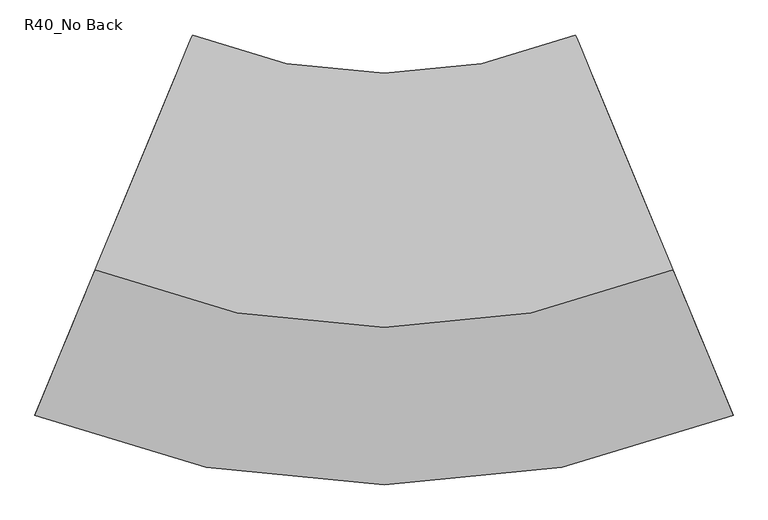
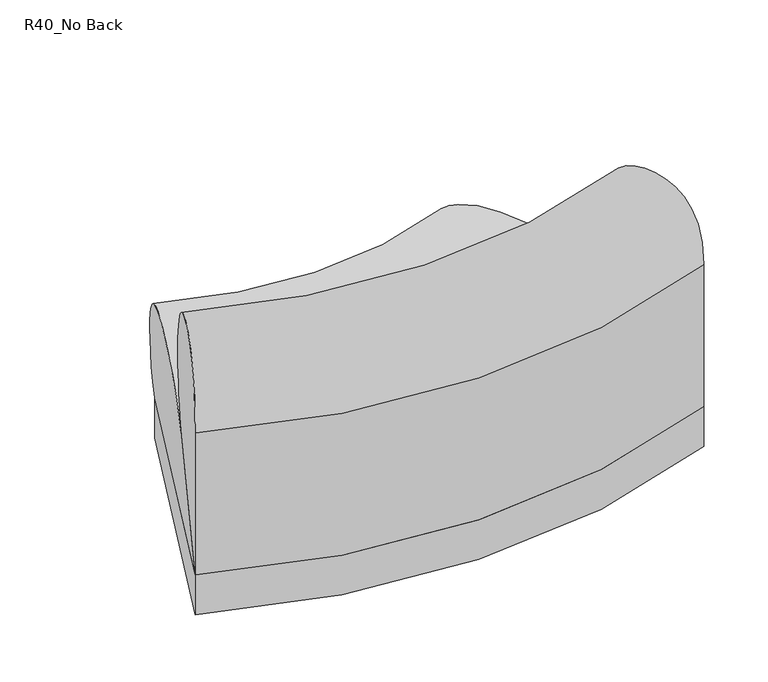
"""IFC4 building model written with IfcOpenShell, lengths in millimetres: furniture geometry, Memo_Candy_CurveInside_R40 : R40_No Back."""

from ifc_helpers import new_model, si_unit, point, frame, frame_2d, origin, origin_with_axes, place, context, project, spatial, polyline, circle_curve, ellipse_curve, trimmed, segment, composite_curve, outline, extrude, source, transform, mapped, element, save
from ifc_brep_helpers import plane_surface, cylinder_surface, revolved_surface, spline_curve, advanced_brep


def r40_no_back_3ae10d6b(model_context):
    return source(origin(), model_context, "Body", "SolidModel", [
        advanced_brep(
        [(-731.4419785, -254.5571445, 130.8862), (-731.4419785, -254.5571445, 562.6862), (-629.1154234, -7.5189875, 386.6180112), (-628.9674702, -7.1617968, 382.770933), (731.4419785, -254.5571445, 130.8862), (628.9674702, -7.1617968, 382.770933), (629.1154234, -7.5189875, 386.6180112), (731.4419785, -254.5571445, 562.6862)],
        [
            (0, 1),
            (1, 2, spline_curve(3, [(-731.4419785, -254.5571445, 562.6862), (-731.4419785, -254.5571445, 709.516352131), (-708.619406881, -199.458582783, 756.110862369), (-660.286457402, -82.772520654, 789.248467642), (-634.747423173, -21.115837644, 768.908542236), (-606.819796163, 46.307418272, 674.263665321), (-602.93956843, 55.675116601, 603.825037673), (-609.589379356, 39.621052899, 487.129586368), (-616.613307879, 22.663789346, 439.369212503), (-629.1154234, -7.5189875, 386.6180112)], [4, 2, 2, 2, 4], [0.0, 0.5511378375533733, 1.1606492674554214, 1.727611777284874, 2.146168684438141])),
            (2, 3, circle_curve(frame((-628.0824579, -5.0251882, 384.9463138), z_axis=(0.9238795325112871, -0.38268343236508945, 0.0), x_axis=(-0.38268343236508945, -0.9238795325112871, 0.0)), 3.175)),
            (3, 0),
            (4, 5),
            (5, 6, circle_curve(frame((628.0824579, -5.0251882, 384.9463138), z_axis=(-0.9238795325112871, -0.38268343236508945, 0.0), x_axis=(0.38268343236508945, -0.9238795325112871, 0.0)), 3.175)),
            (6, 7, spline_curve(3, [(629.1154234, -7.5189875, 386.6180112), (616.613307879, 22.663789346, 439.369212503), (609.589379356, 39.621052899, 487.129586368), (602.93956843, 55.675116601, 603.825037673), (606.819796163, 46.307418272, 674.263665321), (634.747423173, -21.115837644, 768.908542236), (660.286457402, -82.772520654, 789.248467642), (708.619406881, -199.458582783, 756.110862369), (731.4419785, -254.5571445, 709.516352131), (731.4419785, -254.5571445, 562.6862)], [4, 2, 2, 2, 4], [0.0, 0.4185569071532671, 0.9855194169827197, 1.5950308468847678, 2.146168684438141])),
            (7, 4),
            (4, 0, circle_curve(frame((0.0, 1511.3, 130.8862), z_axis=(0.0, 0.0, -1.0), x_axis=(-0.38268343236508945, -0.9238795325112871, 0.0)), 1911.35)),
            (3, 5, circle_curve(frame((0.0, 1511.3, 382.770933), z_axis=(0.0, 0.0, 1.0), x_axis=(-0.38268343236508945, -0.9238795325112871, 0.0)), 1643.5712053)),
            (2, 6, circle_curve(frame((0.0, 1511.3, 386.6180112), z_axis=(0.0, 0.0, 1.0), x_axis=(-0.38268343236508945, -0.9238795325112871, 0.0)), 1643.9578258)),
            (1, 7, circle_curve(frame((0.0, 1511.3, 562.6862), z_axis=(0.0, 0.0, 1.0), x_axis=(-0.38268343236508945, -0.9238795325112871, 0.0)), 1911.35)),
        ],
        [
            plane_surface(frame((0.0, 1511.3, -101.6), z_axis=(-0.923879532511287, 0.3826834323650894, 0.0), x_axis=(-0.3826834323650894, -0.923879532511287, 0.0))),
            plane_surface(frame((0.0, 1511.3, -101.6), z_axis=(0.923879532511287, 0.3826834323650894, 0.0), x_axis=(0.3826834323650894, -0.923879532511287, 0.0))),
            revolved_surface(polyline([(-628.9674702, -7.1617968, 382.770933), (-731.4419785, -254.5571445, 130.8862)]), (0.0, 1511.3, -101.6), (0.0, 0.0, 1.0)),
            revolved_surface(trimmed(ellipse_curve(frame((-628.0824579, -5.0251882, 384.9463138), z_axis=(0.9238795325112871, -0.38268343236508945, 0.0), x_axis=(-0.38268343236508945, -0.9238795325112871, 0.0)), 3.175, 3.175), [point((-629.1154234, -7.5189875, 386.6180112))], [point((-628.9674702, -7.1617968, 382.770933))], True, "CARTESIAN"), (0.0, 1511.3, -101.6), (0.0, 0.0, 1.0)),
            revolved_surface(spline_curve(3, [(-731.4419785, -254.5571445, 562.6862), (-731.4419785, -254.5571445, 709.516352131), (-708.619406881, -199.458582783, 756.110862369), (-660.286457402, -82.772520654, 789.248467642), (-634.747423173, -21.115837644, 768.908542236), (-606.819796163, 46.307418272, 674.263665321), (-602.93956843, 55.675116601, 603.825037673), (-609.589379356, 39.621052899, 487.129586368), (-616.613307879, 22.663789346, 439.369212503), (-629.1154234, -7.5189875, 386.6180112)], [4, 2, 2, 2, 4], [0.0, 0.5511378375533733, 1.1606492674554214, 1.727611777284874, 2.146168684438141]), (0.0, 1511.3, -101.6), (0.0, 0.0, 1.0)),
            cylinder_surface(frame((0.0, 1511.3, -101.6), z_axis=(0.0, 0.0, 1.0), x_axis=(-0.38268343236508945, -0.9238795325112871, 0.0)), 1911.35),
        ],
        [
            (0, [[1, 2, 3, 4]]),
            (1, [[5, 6, 7, 8]]),
            (2, [[-5, 9, -4, 10]]),
            (3, [[-6, -10, -3, 11]]),
            (4, [[-7, -11, -2, 12]]),
            (5, [[-8, -12, -1, -9]]),
        ],
    ),
        advanced_brep(
        [(-731.4419785, -254.5571445, 130.8862), (-628.9674702, -7.1617968, 382.770933), (-627.4163038, -3.4169498, 382.2910487), (-626.901641, -2.174444, 383.1727272), (-434.9771234, 461.1723294, 130.8862), (731.4419785, -254.5571445, 130.8862), (434.9771234, 461.1723294, 130.8862), (626.901641, -2.174444, 383.1727272), (627.4163038, -3.4169498, 382.2910487), (628.9674702, -7.1617968, 382.770933)],
        [
            (0, 1),
            (1, 2, circle_curve(frame((-628.0824579, -5.0251882, 384.9463138), z_axis=(0.9238795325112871, -0.38268343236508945, 0.0), x_axis=(-0.38268343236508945, -0.9238795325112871, 0.0)), 3.175)),
            (2, 3),
            (3, 4, spline_curve(3, [(-626.901641, -2.174444, 383.1727272), (-596.174348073, 72.007803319, 435.812236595), (-553.600502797, 174.790157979, 449.084914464), (-483.082653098, 345.035307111, 454.422655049), (-457.445877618, 406.927958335, 443.81214514), (-417.575648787, 503.183205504, 393.569418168), (-402.32453207, 540.002658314, 357.685536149), (-399.983616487, 545.654128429, 240.606468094), (-407.685661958, 527.05974575, 170.417318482), (-434.9771234, 461.1723294, 130.8862)], [4, 2, 2, 2, 4], [0.0, 0.5700178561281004, 1.2070229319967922, 1.7653111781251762, 2.2072085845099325])),
            (4, 0),
            (5, 6),
            (6, 7, spline_curve(3, [(434.9771234, 461.1723294, 130.8862), (407.685661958, 527.05974575, 170.417318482), (399.983616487, 545.654128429, 240.606468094), (402.32453207, 540.002658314, 357.685536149), (417.575648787, 503.183205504, 393.569418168), (457.445877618, 406.927958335, 443.81214514), (483.082653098, 345.035307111, 454.422655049), (553.600502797, 174.790157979, 449.084914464), (596.174348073, 72.007803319, 435.812236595), (626.901641, -2.174444, 383.1727272)], [4, 2, 2, 2, 4], [0.0, 0.4418974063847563, 1.0001856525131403, 1.637190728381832, 2.2072085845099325])),
            (7, 8),
            (8, 9, circle_curve(frame((628.0824579, -5.0251882, 384.9463138), z_axis=(-0.9238795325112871, -0.38268343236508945, 0.0), x_axis=(0.38268343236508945, -0.9238795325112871, 0.0)), 3.175)),
            (9, 5),
            (5, 0, circle_curve(frame((0.0, 1511.3, 130.8862), z_axis=(0.0, 0.0, -1.0), x_axis=(-0.38268343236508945, -0.9238795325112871, 0.0)), 1911.35)),
            (4, 6, circle_curve(frame((0.0, 1511.3, 130.8862), z_axis=(0.0, 0.0, 1.0), x_axis=(-0.38268343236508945, -0.9238795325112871, 0.0)), 1136.65)),
            (3, 7, circle_curve(frame((0.0, 1511.3, 383.1727272), z_axis=(0.0, 0.0, 1.0), x_axis=(-0.38268343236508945, -0.9238795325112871, 0.0)), 1638.1729335)),
            (2, 8, circle_curve(frame((0.0, 1511.3, 382.2910487), z_axis=(0.0, 0.0, 1.0), x_axis=(-0.38268343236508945, -0.9238795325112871, 0.0)), 1639.5178121)),
            (1, 9, circle_curve(frame((0.0, 1511.3, 382.770933), z_axis=(0.0, 0.0, 1.0), x_axis=(-0.38268343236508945, -0.9238795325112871, 0.0)), 1643.5712053)),
        ],
        [
            plane_surface(frame((0.0, 1511.3, -173.9138), z_axis=(-0.923879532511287, 0.3826834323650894, 0.0), x_axis=(-0.3826834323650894, -0.923879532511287, 0.0))),
            plane_surface(frame((0.0, 1511.3, -173.9138), z_axis=(0.923879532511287, 0.3826834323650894, 0.0), x_axis=(0.3826834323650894, -0.923879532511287, 0.0))),
            plane_surface(frame((0.0, 1511.3, 130.8862), z_axis=(0.0, 0.0, -1.0), x_axis=(-0.3826834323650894, -0.923879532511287, 0.0))),
            revolved_surface(spline_curve(3, [(-626.901641, -2.174444, 383.1727272), (-596.174348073, 72.007803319, 435.812236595), (-553.600502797, 174.790157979, 449.084914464), (-483.082653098, 345.035307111, 454.422655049), (-457.445877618, 406.927958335, 443.81214514), (-417.575648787, 503.183205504, 393.569418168), (-402.32453207, 540.002658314, 357.685536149), (-399.983616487, 545.654128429, 240.606468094), (-407.685661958, 527.05974575, 170.417318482), (-434.9771234, 461.1723294, 130.8862)], [4, 2, 2, 2, 4], [0.0, 0.5700178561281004, 1.2070229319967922, 1.7653111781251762, 2.2072085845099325]), (0.0, 1511.3, -173.9138), (0.0, 0.0, 1.0)),
            revolved_surface(polyline([(-627.4163038, -3.4169498, 382.2910487), (-626.901641, -2.174444, 383.1727272)]), (0.0, 1511.3, -173.9138), (0.0, 0.0, 1.0)),
            revolved_surface(trimmed(ellipse_curve(frame((-628.0824579, -5.0251882, 384.9463138), z_axis=(0.9238795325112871, -0.38268343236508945, 0.0), x_axis=(-0.38268343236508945, -0.9238795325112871, 0.0)), 3.175, 3.175), [point((-628.9674702, -7.1617968, 382.770933))], [point((-627.4163038, -3.4169498, 382.2910487))], True, "CARTESIAN"), (0.0, 1511.3, -173.9138), (0.0, 0.0, 1.0)),
            revolved_surface(polyline([(-731.4419785, -254.5571445, 130.8862), (-628.9674702, -7.1617968, 382.770933)]), (0.0, 1511.3, -173.9138), (0.0, 0.0, 1.0)),
        ],
        [
            (0, [[1, 2, 3, 4, 5]]),
            (1, [[6, 7, 8, 9, 10]]),
            (2, [[-6, 11, -5, 12]]),
            (3, [[-7, -12, -4, 13]]),
            (4, [[-8, -13, -3, 14]]),
            (5, [[-9, -14, -2, 15]]),
            (6, [[-10, -15, -1, -11]]),
        ],
    ),
        extrude(outline(composite_curve([segment(trimmed(circle_curve(frame_2d((658.8659727, -228.6833139)), 14.2875), [point((644.5784727, -228.6833139))], [point((673.1534727, -228.6833139))], False, "CARTESIAN"), True, "CONTINUOUS"), segment(trimmed(circle_curve(frame_2d((658.8659727, -228.6833139)), 14.2875), [point((673.1534727, -228.6833139))], [point((644.5784727, -228.6833139))], False, "CARTESIAN"), True, "CONTINUOUS")], self_intersect=False)), origin_with_axes(), (0.0, 0.0, 1.0), 10.2362),
        extrude(outline(composite_curve([segment(trimmed(circle_curve(frame_2d((400.9566853, 393.9647854)), 14.2875), [point((386.6691853, 393.9647854))], [point((415.2441853, 393.9647854))], False, "CARTESIAN"), True, "CONTINUOUS"), segment(trimmed(circle_curve(frame_2d((400.9566853, 393.9647854)), 14.2875), [point((415.2441853, 393.9647854))], [point((386.6691853, 393.9647854))], False, "CARTESIAN"), True, "CONTINUOUS")], self_intersect=False)), origin_with_axes(), (0.0, 0.0, 1.0), 10.2362),
        extrude(outline(composite_curve([segment(trimmed(circle_curve(frame_2d((-658.8659727, -228.6833139)), 14.2875), [point((-644.5784727, -228.6833139))], [point((-673.1534727, -228.6833139))], False, "CARTESIAN"), True, "CONTINUOUS"), segment(trimmed(circle_curve(frame_2d((-658.8659727, -228.6833139)), 14.2875), [point((-673.1534727, -228.6833139))], [point((-644.5784727, -228.6833139))], False, "CARTESIAN"), True, "CONTINUOUS")], self_intersect=False)), origin_with_axes(), (0.0, 0.0, 1.0), 10.2362),
        extrude(outline(composite_curve([segment(trimmed(circle_curve(frame_2d((-400.9566853, 393.9647854)), 14.2875), [point((-386.6691853, 393.9647854))], [point((-415.2441853, 393.9647854))], False, "CARTESIAN"), True, "CONTINUOUS"), segment(trimmed(circle_curve(frame_2d((-400.9566853, 393.9647854)), 14.2875), [point((-415.2441853, 393.9647854))], [point((-386.6691853, 393.9647854))], False, "CARTESIAN"), True, "CONTINUOUS")], self_intersect=False)), origin_with_axes(), (0.0, 0.0, 1.0), 10.2362),
        extrude(outline(composite_curve([segment(trimmed(circle_curve(frame_2d((0.0, -349.25)), 14.2875), [point((14.2875, -349.25))], [point((-14.2875, -349.25))], False, "CARTESIAN"), True, "CONTINUOUS"), segment(trimmed(circle_curve(frame_2d((0.0, -349.25)), 14.2875), [point((-14.2875, -349.25))], [point((14.2875, -349.25))], False, "CARTESIAN"), True, "CONTINUOUS")], self_intersect=False)), origin_with_axes(), (0.0, 0.0, 1.0), 10.2362),
        extrude(outline(composite_curve([segment(polyline([(-731.4419785, -254.5571445), (-434.9771234, 461.1723294)]), True, "CONTINUOUS"), segment(trimmed(circle_curve(frame_2d((0.0, 1511.3)), 1136.65), [point((-434.9771234, 461.1723294))], [point((434.9771234, 461.1723294))], True, "CARTESIAN"), True, "CONTINUOUS"), segment(polyline([(434.9771234, 461.1723294), (731.4419785, -254.5571445)]), True, "CONTINUOUS"), segment(trimmed(circle_curve(frame_2d((0.0, 1511.3)), 1911.35), [point((731.4419785, -254.5571445))], [point((-731.4419785, -254.5571445))], False, "CARTESIAN"), True, "CONTINUOUS")], self_intersect=False)), frame((0.0, 0.0, 10.2362), z_axis=(0.0, 0.0, 1.0), x_axis=(1.0, 0.0, 0.0)), (0.0, 0.0, 1.0), 120.65),
    ])


if __name__ == "__main__":
    model = new_model("IFC4")
    model_context = context("Model", 3, world=origin())
    ifc_project = project(units=[si_unit("LENGTHUNIT", "METRE", prefix="MILLI")], contexts=[model_context])
    site = spatial("IfcSite", under=ifc_project)
    building = spatial("IfcBuilding", under=site)
    placement = place(None, origin())
    r40_no_back_shape = r40_no_back_3ae10d6b(model_context)
    element("IfcFurniture", 1, ObjectType="Memo_Candy_CurveInside_R40 : R40_No Back", at=placement, inside=building, context=model_context, shape_type="MappedRepresentation", body=[
        mapped(r40_no_back_shape, transform((0.0, 0.0, 0.0), x_axis=(1.0, 0.0, 0.0), y_axis=(0.0, 1.0, 0.0), z_axis=(0.0, 0.0, 1.0))),
    ])
    save(model, "model.ifc")
